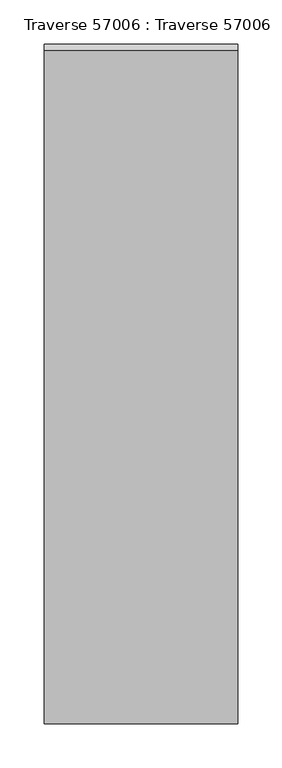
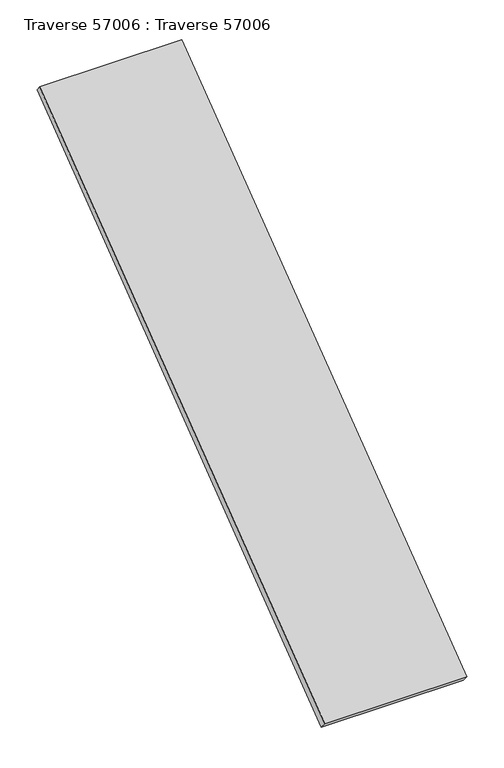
"""IFC4 building model written with IfcOpenShell, lengths in millimetres: beam geometry, Traverse 57006 : Traverse 57006."""

from ifc_helpers import new_model, si_unit, frame, origin, place, context, project, spatial, polyline, outline, extrude, source, transform, mapped, element, save


def traverse_57006_traverse_57006_b238c5c5(model_context):
    return source(origin(), model_context, "Body", "SweptSolid", [
        extrude(outline(polyline([(-33781.0, 6850.3937869), (-33015.663425, 7430.14), (-33008.4642199, 7420.6361605), (-33771.9689348, 6838.4716659), (-33781.0, 6850.3937869)])), frame((-110.0000001, 0.0, 0.0), z_axis=(1.0, 0.0, 0.0), x_axis=(0.0, 1.0, 0.0)), (0.0, 0.0, 1.0), 220.0),
    ])


if __name__ == "__main__":
    model = new_model("IFC4")
    model_context = context("Model", 3, world=origin())
    ifc_project = project(units=[si_unit("LENGTHUNIT", "METRE", prefix="MILLI")], contexts=[model_context])
    site = spatial("IfcSite", under=ifc_project)
    building = spatial("IfcBuilding", under=site)
    placement = place(None, origin())
    traverse_57006_traverse_57006_shape = traverse_57006_traverse_57006_b238c5c5(model_context)
    element("IfcBeam", 1, ObjectType="Traverse 57006 : Traverse 57006", at=placement, inside=building, context=model_context, shape_type="MappedRepresentation", body=[
        mapped(traverse_57006_traverse_57006_shape, transform((0.0, 0.0, 0.0), x_axis=(1.0, 0.0, 0.0), y_axis=(0.0, 1.0, 0.0), z_axis=(0.0, 0.0, 1.0))),
    ])
    save(model, "model.ifc")
